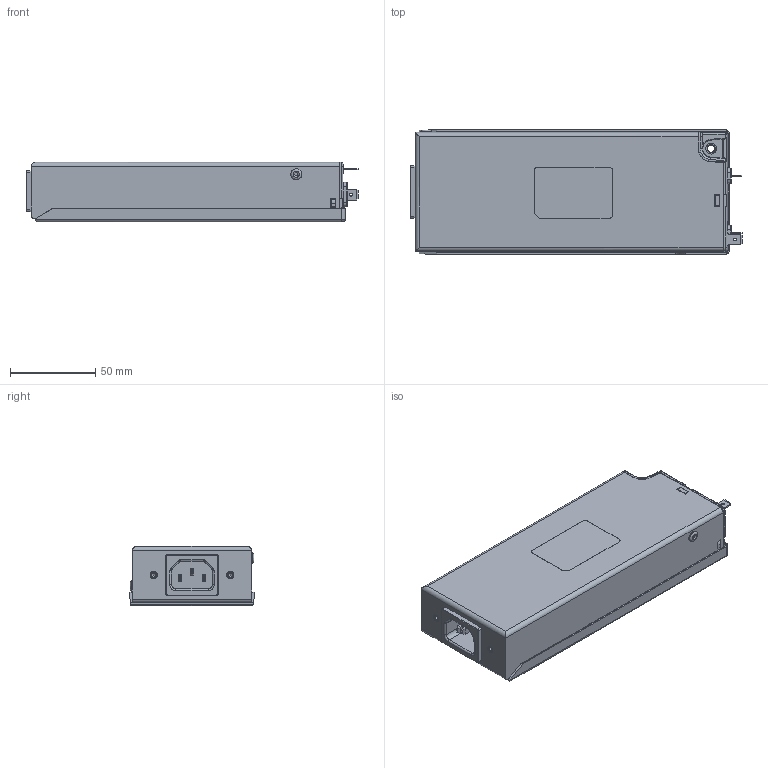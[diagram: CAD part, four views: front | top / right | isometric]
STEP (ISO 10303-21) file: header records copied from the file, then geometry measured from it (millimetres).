
FILE_DESCRIPTION(/* description */ (''),/* implementation_level */ '2;1');
FILE_NAME(/* name */ 'C:\Users\Christian.Ackermann\OneDrive - Schaffner EMV AG\Desktop\UMA_customerSTEP\FN266x-10_15-05.stp',/* time_stamp */ '2021-11-30T10:55:06+01:00',/* author */ ('Christian.Ackermann'),/* organization */ (''),/* preprocessor_version */ 'ST-DEVELOPER v18.1',/* originating_system */ 'Autodesk Inventor 2020',/* authorisation */ '');
FILE_SCHEMA (('AUTOMOTIVE_DESIGN { 1 0 10303 214 3 1 1 }'));
Length unit declared in the file: millimetre
Products named in the file (1): FN266x-10_15-05
Bounding box: 195.1 x 73 x 35.06 mm (x, y, z)
Volume: 433781.8 mm3; surface area: 78813.1 mm2
Topology: 1 solids, 1 shells, 1026 faces, 2648 edges, 1657 vertices
Faces by surface type: plane 541, cylinder 295, bspline 67, torus 66, cone 43, sphere 14
Full cylindrical faces by diameter (mm): 1.65 x3, 2 x2, 2.459 x2, 4.2 x1, 4.25 x2, 6.4 x1, 6.5 x2, 8.39 x2, 8.74 x3
Entity records: 34290 total; most frequent: CARTESIAN_POINT 7756, DIRECTION 5331, ORIENTED_EDGE 5286, EDGE_CURVE 2643, AXIS2_PLACEMENT_3D 1808, LINE 1715, VECTOR 1715, VERTEX_POINT 1657
